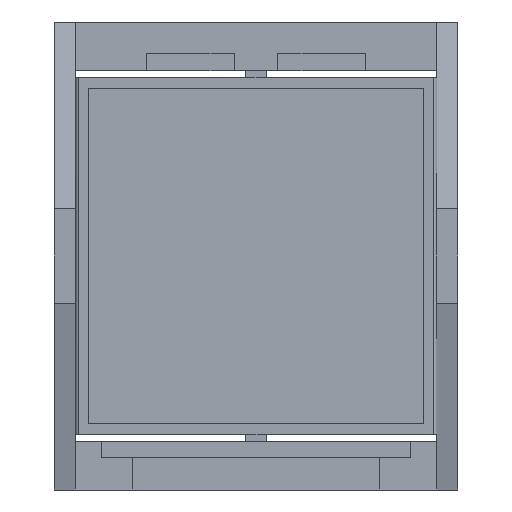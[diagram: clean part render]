
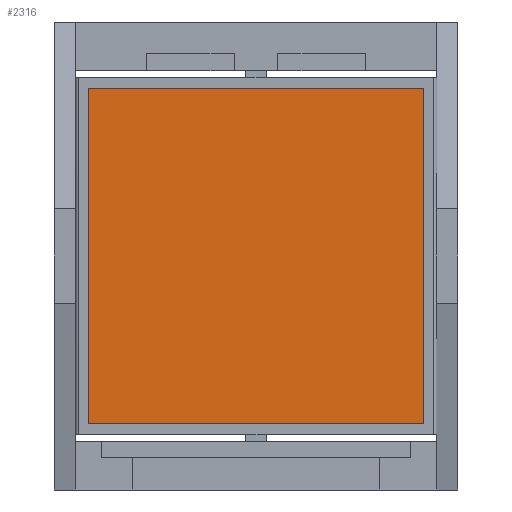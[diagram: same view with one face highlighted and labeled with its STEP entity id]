
A CAD part, front view. The second image highlights one B-rep face of the part: STEP entity #2316.
In plain terms, the highlighted planar face has unit normal (0, -1, 0).
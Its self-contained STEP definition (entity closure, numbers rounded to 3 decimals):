
#481 = FACE_OUTER_BOUND ( 'NONE', #1339, .T. ) ;
#870 = LINE ( 'NONE', #2467, #5790 ) ;
#1070 = CARTESIAN_POINT ( 'NONE',  ( -7.772, -3.744, -10.991 ) ) ;
#1339 = EDGE_LOOP ( 'NONE', ( #5877, #5644, #7071, #3424 ) ) ;
#1404 = CARTESIAN_POINT ( 'NONE',  ( -7.772, -3.744, 12.009 ) ) ;
#1422 = LINE ( 'NONE', #5984, #4287 ) ;
#1608 = CARTESIAN_POINT ( 'NONE',  ( -7.772, -3.744, -10.991 ) ) ;
#1959 = EDGE_CURVE ( 'NONE', #6363, #4907, #6218, .T. ) ;
#2065 = CARTESIAN_POINT ( 'NONE',  ( 15.228, -3.744, 12.009 ) ) ;
#2220 = VECTOR ( 'NONE', #2942, 1000. ) ;
#2262 = CARTESIAN_POINT ( 'NONE',  ( -7.772, -3.744, 12.009 ) ) ;
#2316 = ADVANCED_FACE ( 'NONE', ( #481 ), #6173, .F. ) ;
#2467 = CARTESIAN_POINT ( 'NONE',  ( 15.228, -3.744, -10.991 ) ) ;
#2907 = CARTESIAN_POINT ( 'NONE',  ( -7.772, -3.744, -10.991 ) ) ;
#2942 = DIRECTION ( 'NONE',  ( 0., 0., 1. ) ) ;
#3334 = DIRECTION ( 'NONE',  ( -1., 0., 0. ) ) ;
#3367 = DIRECTION ( 'NONE',  ( 0., 0., 1. ) ) ;
#3424 = ORIENTED_EDGE ( 'NONE', *, *, #7079, .F. ) ;
#3499 = AXIS2_PLACEMENT_3D ( 'NONE', #2262, #5154, #3367 ) ;
#3763 = EDGE_CURVE ( 'NONE', #7000, #6717, #870, .T. ) ;
#3813 = CARTESIAN_POINT ( 'NONE',  ( 15.228, -3.744, -10.991 ) ) ;
#4287 = VECTOR ( 'NONE', #4350, 1000. ) ;
#4350 = DIRECTION ( 'NONE',  ( 1., 0., 0. ) ) ;
#4907 = VERTEX_POINT ( 'NONE', #1404 ) ;
#5106 = VECTOR ( 'NONE', #3334, 1000. ) ;
#5154 = DIRECTION ( 'NONE',  ( 0., 1., 0. ) ) ;
#5644 = ORIENTED_EDGE ( 'NONE', *, *, #6797, .F. ) ;
#5790 = VECTOR ( 'NONE', #6533, 1000. ) ;
#5877 = ORIENTED_EDGE ( 'NONE', *, *, #1959, .F. ) ;
#5984 = CARTESIAN_POINT ( 'NONE',  ( -7.772, -3.744, 12.009 ) ) ;
#6133 = LINE ( 'NONE', #1070, #5106 ) ;
#6173 = PLANE ( 'NONE',  #3499 ) ;
#6218 = LINE ( 'NONE', #2907, #2220 ) ;
#6363 = VERTEX_POINT ( 'NONE', #1608 ) ;
#6533 = DIRECTION ( 'NONE',  ( 0., 0., -1. ) ) ;
#6717 = VERTEX_POINT ( 'NONE', #3813 ) ;
#6797 = EDGE_CURVE ( 'NONE', #6717, #6363, #6133, .T. ) ;
#7000 = VERTEX_POINT ( 'NONE', #2065 ) ;
#7071 = ORIENTED_EDGE ( 'NONE', *, *, #3763, .F. ) ;
#7079 = EDGE_CURVE ( 'NONE', #4907, #7000, #1422, .T. ) ;
